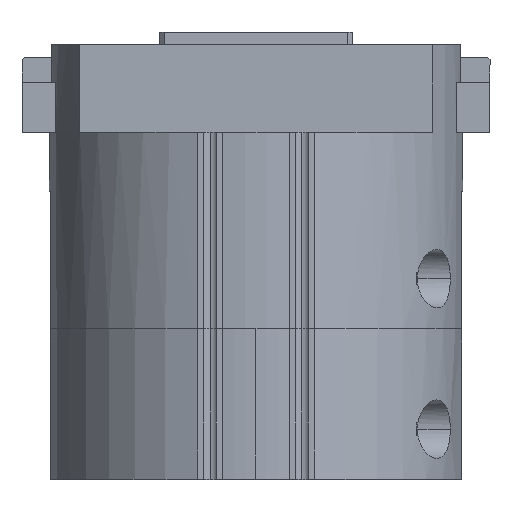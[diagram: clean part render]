
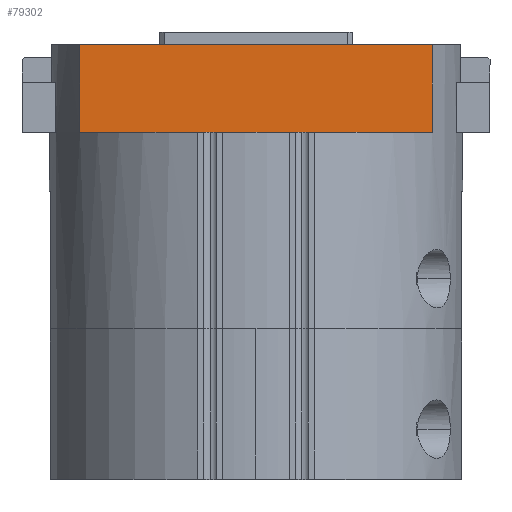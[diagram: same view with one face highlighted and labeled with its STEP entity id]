
A CAD part, top view. The second image highlights one B-rep face of the part: STEP entity #79302.
In plain terms, the highlighted planar face has unit normal (0, 0, 1).
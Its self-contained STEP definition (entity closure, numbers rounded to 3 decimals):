
#4100 = AXIS2_PLACEMENT_3D ( 'NONE', #22737, #84648, #38304 ) ;
#10152 = ORIENTED_EDGE ( 'NONE', *, *, #48613, .T. ) ;
#14728 = DIRECTION ( 'NONE',  ( 0., 1., 0. ) ) ;
#15462 = CARTESIAN_POINT ( 'NONE',  ( 42.122, 68., 26. ) ) ;
#16725 = ORIENTED_EDGE ( 'NONE', *, *, #96548, .F. ) ;
#22737 = CARTESIAN_POINT ( 'NONE',  ( -49.5, 72.957, 26. ) ) ;
#22835 = VERTEX_POINT ( 'NONE', #15462 ) ;
#28820 = VERTEX_POINT ( 'NONE', #40938 ) ;
#29530 = CARTESIAN_POINT ( 'NONE',  ( -49.5, 47., 26. ) ) ;
#30212 = EDGE_LOOP ( 'NONE', ( #16725, #10152, #49421, #92946 ) ) ;
#38304 = DIRECTION ( 'NONE',  ( 0., 1., 0. ) ) ;
#39805 = DIRECTION ( 'NONE',  ( 0., -1., 0. ) ) ;
#40938 = CARTESIAN_POINT ( 'NONE',  ( -42.122, 68., 26. ) ) ;
#41111 = CARTESIAN_POINT ( 'NONE',  ( -42.122, 47., 26. ) ) ;
#45075 = DIRECTION ( 'NONE',  ( 1., 0., 0. ) ) ;
#46065 = VECTOR ( 'NONE', #45075, 1000. ) ;
#48491 = LINE ( 'NONE', #29530, #46065 ) ;
#48613 = EDGE_CURVE ( 'NONE', #49459, #99298, #48491, .T. ) ;
#48762 = LINE ( 'NONE', #55340, #69356 ) ;
#49421 = ORIENTED_EDGE ( 'NONE', *, *, #81851, .F. ) ;
#49459 = VERTEX_POINT ( 'NONE', #41111 ) ;
#51578 = LINE ( 'NONE', #93942, #74591 ) ;
#53898 = CARTESIAN_POINT ( 'NONE',  ( 42.122, 47., 26. ) ) ;
#55264 = FACE_OUTER_BOUND ( 'NONE', #30212, .T. ) ;
#55340 = CARTESIAN_POINT ( 'NONE',  ( -42.122, 68., 26. ) ) ;
#64375 = EDGE_CURVE ( 'NONE', #28820, #22835, #94249, .T. ) ;
#66326 = CARTESIAN_POINT ( 'NONE',  ( 0., 68., 26. ) ) ;
#69356 = VECTOR ( 'NONE', #14728, 1000. ) ;
#73660 = VECTOR ( 'NONE', #90022, 1000. ) ;
#74591 = VECTOR ( 'NONE', #39805, 1000. ) ;
#76857 = PLANE ( 'NONE',  #4100 ) ;
#79302 = ADVANCED_FACE ( 'NONE', ( #55264 ), #76857, .F. ) ;
#81851 = EDGE_CURVE ( 'NONE', #22835, #99298, #51578, .T. ) ;
#84648 = DIRECTION ( 'NONE',  ( 0., 0., -1. ) ) ;
#90022 = DIRECTION ( 'NONE',  ( 1., 0., 0. ) ) ;
#92946 = ORIENTED_EDGE ( 'NONE', *, *, #64375, .F. ) ;
#93942 = CARTESIAN_POINT ( 'NONE',  ( 42.122, 68., 26. ) ) ;
#94249 = LINE ( 'NONE', #66326, #73660 ) ;
#96548 = EDGE_CURVE ( 'NONE', #49459, #28820, #48762, .T. ) ;
#99298 = VERTEX_POINT ( 'NONE', #53898 ) ;
